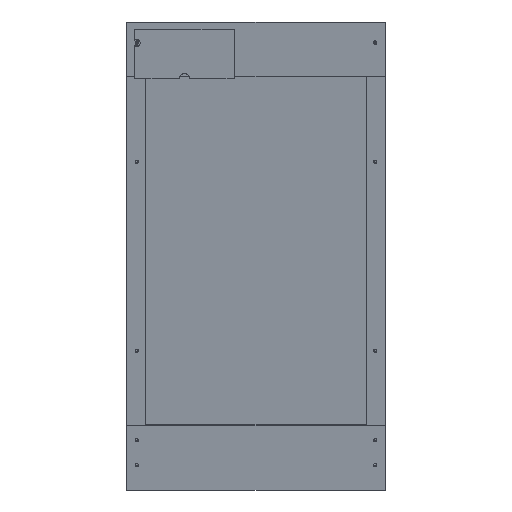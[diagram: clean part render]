
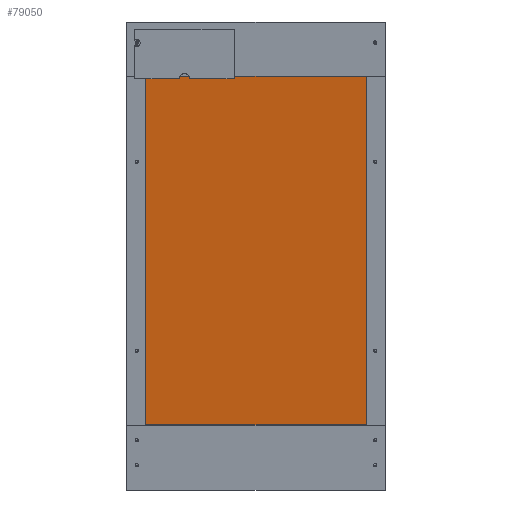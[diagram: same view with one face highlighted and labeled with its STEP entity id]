
A CAD part, top view. The second image highlights one B-rep face of the part: STEP entity #79050.
In plain terms, the highlighted planar face has unit normal (0, -0.174, 0.985).
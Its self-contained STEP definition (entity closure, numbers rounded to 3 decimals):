
#78881 = PLANE('',#78882);
#78882 = AXIS2_PLACEMENT_3D('',#78883,#78884,#78885);
#78883 = CARTESIAN_POINT('',(18.1,64.,86.285));
#78884 = DIRECTION('',(-0.,1.,0.));
#78885 = DIRECTION('',(0.,0.,-1.));
#78909 = PLANE('',#78910);
#78910 = AXIS2_PLACEMENT_3D('',#78911,#78912,#78913);
#78911 = CARTESIAN_POINT('',(241.9,240.675,111.437));
#78912 = DIRECTION('',(1.,0.,0.));
#78913 = DIRECTION('',(-0.,0.,1.));
#78937 = PLANE('',#78938);
#78938 = AXIS2_PLACEMENT_3D('',#78939,#78940,#78941);
#78939 = CARTESIAN_POINT('',(18.1,417.349,136.59));
#78940 = DIRECTION('',(0.,-1.,0.));
#78941 = DIRECTION('',(0.,0.,1.));
#78963 = PLANE('',#78964);
#78964 = AXIS2_PLACEMENT_3D('',#78965,#78966,#78967);
#78965 = CARTESIAN_POINT('',(18.1,240.675,111.437));
#78966 = DIRECTION('',(1.,0.,0.));
#78967 = DIRECTION('',(-0.,0.,1.));
#78980 = VERTEX_POINT('',#78981);
#78981 = CARTESIAN_POINT('',(241.9,417.349,148.59));
#79002 = EDGE_CURVE('',#79003,#78980,#79005,.T.);
#79003 = VERTEX_POINT('',#79004);
#79004 = CARTESIAN_POINT('',(18.1,417.349,148.59));
#79005 = SURFACE_CURVE('',#79006,(#79010,#79017),.PCURVE_S1.);
#79006 = LINE('',#79007,#79008);
#79007 = CARTESIAN_POINT('',(18.1,417.349,148.59));
#79008 = VECTOR('',#79009,1.);
#79009 = DIRECTION('',(1.,0.,0.));
#79010 = PCURVE('',#78937,#79011);
#79011 = DEFINITIONAL_REPRESENTATION('',(#79012),#79016);
#79012 = LINE('',#79013,#79014);
#79013 = CARTESIAN_POINT('',(12.,0.));
#79014 = VECTOR('',#79015,1.);
#79015 = DIRECTION('',(0.,-1.));
#79016 = ( GEOMETRIC_REPRESENTATION_CONTEXT(2) 
PARAMETRIC_REPRESENTATION_CONTEXT() REPRESENTATION_CONTEXT('2D SPACE',''
  ) );
#79017 = PCURVE('',#79018,#79023);
#79018 = PLANE('',#79019);
#79019 = AXIS2_PLACEMENT_3D('',#79020,#79021,#79022);
#79020 = CARTESIAN_POINT('',(18.1,417.349,148.59));
#79021 = DIRECTION('',(0.,0.174,-0.985));
#79022 = DIRECTION('',(0.,-0.985,-0.174));
#79023 = DEFINITIONAL_REPRESENTATION('',(#79024),#79028);
#79024 = LINE('',#79025,#79026);
#79025 = CARTESIAN_POINT('',(0.,0.));
#79026 = VECTOR('',#79027,1.);
#79027 = DIRECTION('',(0.,-1.));
#79028 = ( GEOMETRIC_REPRESENTATION_CONTEXT(2) 
PARAMETRIC_REPRESENTATION_CONTEXT() REPRESENTATION_CONTEXT('2D SPACE',''
  ) );
#79050 = ADVANCED_FACE('',(#79051),#79018,.F.);
#79051 = FACE_BOUND('',#79052,.F.);
#79052 = EDGE_LOOP('',(#79053,#79054,#79077,#79100));
#79053 = ORIENTED_EDGE('',*,*,#79002,.T.);
#79054 = ORIENTED_EDGE('',*,*,#79055,.T.);
#79055 = EDGE_CURVE('',#78980,#79056,#79058,.T.);
#79056 = VERTEX_POINT('',#79057);
#79057 = CARTESIAN_POINT('',(241.9,64.,86.285));
#79058 = SURFACE_CURVE('',#79059,(#79063,#79070),.PCURVE_S1.);
#79059 = LINE('',#79060,#79061);
#79060 = CARTESIAN_POINT('',(241.9,417.349,148.59));
#79061 = VECTOR('',#79062,1.);
#79062 = DIRECTION('',(0.,-0.985,-0.174));
#79063 = PCURVE('',#79018,#79064);
#79064 = DEFINITIONAL_REPRESENTATION('',(#79065),#79069);
#79065 = LINE('',#79066,#79067);
#79066 = CARTESIAN_POINT('',(0.,-223.8));
#79067 = VECTOR('',#79068,1.);
#79068 = DIRECTION('',(1.,0.));
#79069 = ( GEOMETRIC_REPRESENTATION_CONTEXT(2) 
PARAMETRIC_REPRESENTATION_CONTEXT() REPRESENTATION_CONTEXT('2D SPACE',''
  ) );
#79070 = PCURVE('',#78909,#79071);
#79071 = DEFINITIONAL_REPRESENTATION('',(#79072),#79076);
#79072 = LINE('',#79073,#79074);
#79073 = CARTESIAN_POINT('',(37.152,-176.675));
#79074 = VECTOR('',#79075,1.);
#79075 = DIRECTION('',(-0.174,0.985));
#79076 = ( GEOMETRIC_REPRESENTATION_CONTEXT(2) 
PARAMETRIC_REPRESENTATION_CONTEXT() REPRESENTATION_CONTEXT('2D SPACE',''
  ) );
#79077 = ORIENTED_EDGE('',*,*,#79078,.F.);
#79078 = EDGE_CURVE('',#79079,#79056,#79081,.T.);
#79079 = VERTEX_POINT('',#79080);
#79080 = CARTESIAN_POINT('',(18.1,64.,86.285));
#79081 = SURFACE_CURVE('',#79082,(#79086,#79093),.PCURVE_S1.);
#79082 = LINE('',#79083,#79084);
#79083 = CARTESIAN_POINT('',(18.1,64.,86.285));
#79084 = VECTOR('',#79085,1.);
#79085 = DIRECTION('',(1.,0.,0.));
#79086 = PCURVE('',#79018,#79087);
#79087 = DEFINITIONAL_REPRESENTATION('',(#79088),#79092);
#79088 = LINE('',#79089,#79090);
#79089 = CARTESIAN_POINT('',(358.8,0.));
#79090 = VECTOR('',#79091,1.);
#79091 = DIRECTION('',(0.,-1.));
#79092 = ( GEOMETRIC_REPRESENTATION_CONTEXT(2) 
PARAMETRIC_REPRESENTATION_CONTEXT() REPRESENTATION_CONTEXT('2D SPACE',''
  ) );
#79093 = PCURVE('',#78881,#79094);
#79094 = DEFINITIONAL_REPRESENTATION('',(#79095),#79099);
#79095 = LINE('',#79096,#79097);
#79096 = CARTESIAN_POINT('',(0.,0.));
#79097 = VECTOR('',#79098,1.);
#79098 = DIRECTION('',(0.,-1.));
#79099 = ( GEOMETRIC_REPRESENTATION_CONTEXT(2) 
PARAMETRIC_REPRESENTATION_CONTEXT() REPRESENTATION_CONTEXT('2D SPACE',''
  ) );
#79100 = ORIENTED_EDGE('',*,*,#79101,.F.);
#79101 = EDGE_CURVE('',#79003,#79079,#79102,.T.);
#79102 = SURFACE_CURVE('',#79103,(#79107,#79114),.PCURVE_S1.);
#79103 = LINE('',#79104,#79105);
#79104 = CARTESIAN_POINT('',(18.1,417.349,148.59));
#79105 = VECTOR('',#79106,1.);
#79106 = DIRECTION('',(0.,-0.985,-0.174));
#79107 = PCURVE('',#79018,#79108);
#79108 = DEFINITIONAL_REPRESENTATION('',(#79109),#79113);
#79109 = LINE('',#79110,#79111);
#79110 = CARTESIAN_POINT('',(0.,0.));
#79111 = VECTOR('',#79112,1.);
#79112 = DIRECTION('',(1.,0.));
#79113 = ( GEOMETRIC_REPRESENTATION_CONTEXT(2) 
PARAMETRIC_REPRESENTATION_CONTEXT() REPRESENTATION_CONTEXT('2D SPACE',''
  ) );
#79114 = PCURVE('',#78963,#79115);
#79115 = DEFINITIONAL_REPRESENTATION('',(#79116),#79120);
#79116 = LINE('',#79117,#79118);
#79117 = CARTESIAN_POINT('',(37.152,-176.675));
#79118 = VECTOR('',#79119,1.);
#79119 = DIRECTION('',(-0.174,0.985));
#79120 = ( GEOMETRIC_REPRESENTATION_CONTEXT(2) 
PARAMETRIC_REPRESENTATION_CONTEXT() REPRESENTATION_CONTEXT('2D SPACE',''
  ) );
